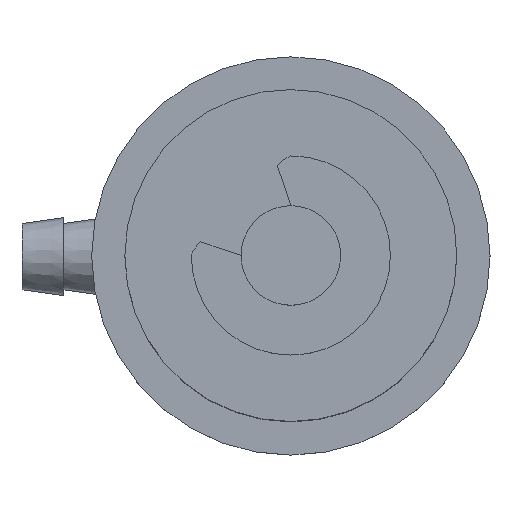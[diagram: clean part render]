
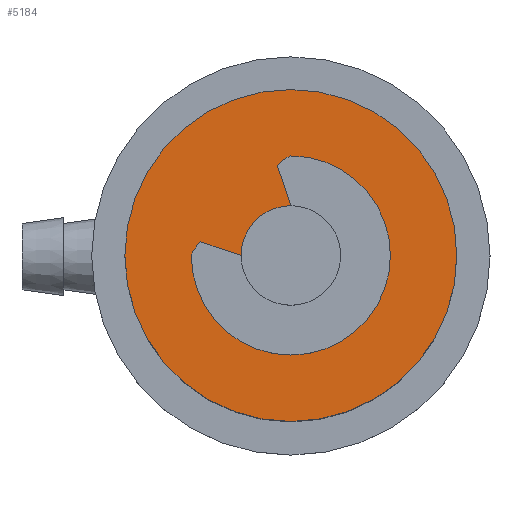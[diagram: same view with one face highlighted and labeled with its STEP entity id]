
A CAD part, top view. The second image highlights one B-rep face of the part: STEP entity #5184.
In plain terms, the highlighted planar face has unit normal (0, 0, 1).
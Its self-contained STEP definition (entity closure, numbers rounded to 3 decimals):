
#205 = VERTEX_POINT ( 'NONE', #5596 ) ;
#395 = AXIS2_PLACEMENT_3D ( 'NONE', #551, #6046, #1352 ) ;
#471 = DIRECTION ( 'NONE',  ( 0., 0., 1. ) ) ;
#483 = DIRECTION ( 'NONE',  ( 1., 0., 0. ) ) ;
#511 = AXIS2_PLACEMENT_3D ( 'NONE', #9815, #5177, #483 ) ;
#551 = CARTESIAN_POINT ( 'NONE',  ( 1.914, -0.406, 25.5 ) ) ;
#689 = EDGE_CURVE ( 'NONE', #205, #2273, #1717, .T. ) ;
#724 = EDGE_LOOP ( 'NONE', ( #7009, #6801 ) ) ;
#802 = AXIS2_PLACEMENT_3D ( 'NONE', #6620, #1944, #7386 ) ;
#1009 = EDGE_LOOP ( 'NONE', ( #9114, #9499 ) ) ;
#1242 = AXIS2_PLACEMENT_3D ( 'NONE', #9660, #471, #6232 ) ;
#1352 = DIRECTION ( 'NONE',  ( -1., 0., 0. ) ) ;
#1673 = FACE_OUTER_BOUND ( 'NONE', #724, .T. ) ;
#1717 = CIRCLE ( 'NONE', #1242, 3. ) ;
#1722 = CARTESIAN_POINT ( 'NONE',  ( 1.914, -0.406, 25.5 ) ) ;
#1944 = DIRECTION ( 'NONE',  ( 0., 0., 1. ) ) ;
#2273 = VERTEX_POINT ( 'NONE', #2419 ) ;
#2419 = CARTESIAN_POINT ( 'NONE',  ( 4.914, -0.406, 25.5 ) ) ;
#2500 = DIRECTION ( 'NONE',  ( -1., 0., 0. ) ) ;
#3091 = AXIS2_PLACEMENT_3D ( 'NONE', #1722, #7162, #2500 ) ;
#3771 = FACE_BOUND ( 'NONE', #1009, .T. ) ;
#3960 = EDGE_CURVE ( 'NONE', #2273, #205, #9694, .T. ) ;
#4389 = CIRCLE ( 'NONE', #3091, 10. ) ;
#4929 = VERTEX_POINT ( 'NONE', #8135 ) ;
#5033 = PLANE ( 'NONE',  #802 ) ;
#5177 = DIRECTION ( 'NONE',  ( 0., 0., 1. ) ) ;
#5184 = ADVANCED_FACE ( 'NONE', ( #3771, #1673 ), #5033, .T. ) ;
#5413 = CIRCLE ( 'NONE', #395, 10. ) ;
#5596 = CARTESIAN_POINT ( 'NONE',  ( -1.086, -0.406, 25.5 ) ) ;
#6046 = DIRECTION ( 'NONE',  ( 0., 0., 1. ) ) ;
#6232 = DIRECTION ( 'NONE',  ( 1., 0., 0. ) ) ;
#6620 = CARTESIAN_POINT ( 'NONE',  ( -8.206, -10.526, 25.5 ) ) ;
#6801 = ORIENTED_EDGE ( 'NONE', *, *, #8415, .T. ) ;
#7009 = ORIENTED_EDGE ( 'NONE', *, *, #8186, .T. ) ;
#7162 = DIRECTION ( 'NONE',  ( 0., 0., 1. ) ) ;
#7386 = DIRECTION ( 'NONE',  ( 1., 0., 0. ) ) ;
#7732 = VERTEX_POINT ( 'NONE', #8010 ) ;
#8010 = CARTESIAN_POINT ( 'NONE',  ( 11.914, -0.406, 25.5 ) ) ;
#8135 = CARTESIAN_POINT ( 'NONE',  ( -8.086, -0.406, 25.5 ) ) ;
#8186 = EDGE_CURVE ( 'NONE', #4929, #7732, #4389, .T. ) ;
#8415 = EDGE_CURVE ( 'NONE', #7732, #4929, #5413, .T. ) ;
#9114 = ORIENTED_EDGE ( 'NONE', *, *, #3960, .F. ) ;
#9499 = ORIENTED_EDGE ( 'NONE', *, *, #689, .F. ) ;
#9660 = CARTESIAN_POINT ( 'NONE',  ( 1.914, -0.406, 25.5 ) ) ;
#9694 = CIRCLE ( 'NONE', #511, 3. ) ;
#9815 = CARTESIAN_POINT ( 'NONE',  ( 1.914, -0.406, 25.5 ) ) ;
